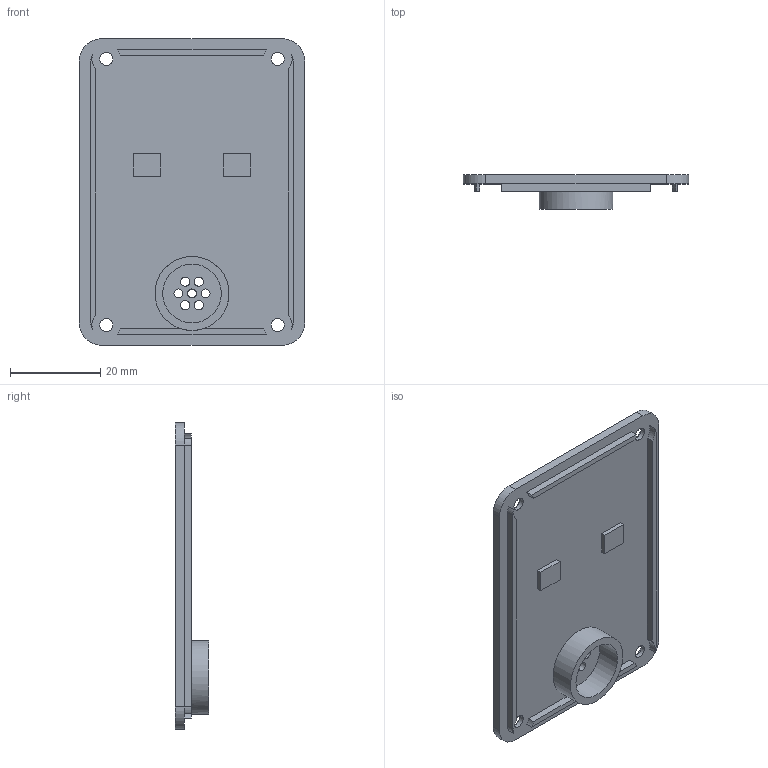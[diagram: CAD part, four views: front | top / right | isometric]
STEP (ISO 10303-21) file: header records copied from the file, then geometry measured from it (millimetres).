
FILE_DESCRIPTION(('Open CASCADE Model'),'2;1');
FILE_NAME('removable_rear_cover','2026-10-06T17:21:02',('Author'),( 'Open CASCADE'),'Open CASCADE STEP processor 7.9','build123d', 'Unknown');
FILE_SCHEMA(('AUTOMOTIVE_DESIGN { 1 0 10303 214 1 1 1 1 }'));
Length unit declared in the file: millimetre
Products named in the file (2): removable_rear_cover
Assembly tree (1 placements, depth 2):
  removable_rear_cover
    removable_rear_cover
Bounding box: 50 x 7.5 x 68 mm (x, y, z)
Volume: 7368.5 mm3; surface area: 8544.5 mm2
Topology: 1 solids, 1 shells, 70 faces, 168 edges, 112 vertices
Faces by surface type: plane 36, cylinder 34
Full cylindrical faces by diameter (mm): 2 x7, 2.9 x4, 5 x4, 13 x1, 15.2 x1, 16.4 x1
Entity records: 4318 total; most frequent: CARTESIAN_POINT 793, DIRECTION 658, ORIENTED_EDGE 336, PCURVE 336, DEFINITIONAL_REPRESENTATION 336, LINE 313, VECTOR 313, EDGE_CURVE 168
